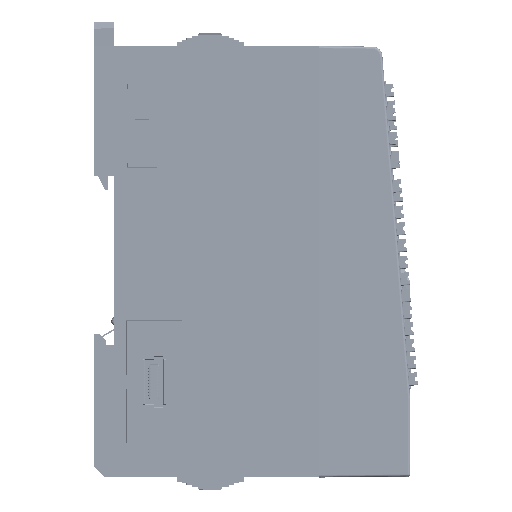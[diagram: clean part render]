
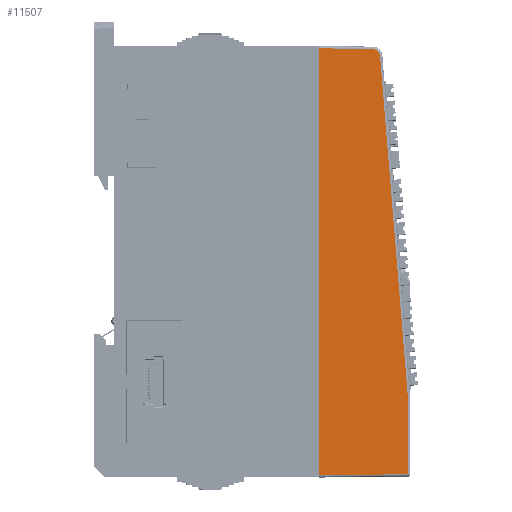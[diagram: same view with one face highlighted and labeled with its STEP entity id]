
A CAD part, front view. The second image highlights one B-rep face of the part: STEP entity #11507.
In plain terms, the highlighted planar face has unit normal (0.011, -1, 0).
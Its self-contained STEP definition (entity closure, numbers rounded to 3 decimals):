
#984=ELLIPSE('',#171730,1.5,1.5);
#11507=ADVANCED_FACE('',(#26527),#20117,.F.);
#20117=PLANE('',#171731);
#26527=FACE_OUTER_BOUND('',#35451,.T.);
#35451=EDGE_LOOP('',(#53106,#53107,#53108,#53109,#53110,#53111));
#53106=ORIENTED_EDGE('',*,*,#112931,.T.);
#53107=ORIENTED_EDGE('',*,*,#112903,.T.);
#53108=ORIENTED_EDGE('',*,*,#112926,.T.);
#53109=ORIENTED_EDGE('',*,*,#112932,.T.);
#53110=ORIENTED_EDGE('',*,*,#112933,.T.);
#53111=ORIENTED_EDGE('',*,*,#112681,.F.);
#95188=VERTEX_POINT('',#235281);
#95189=VERTEX_POINT('',#235283);
#95341=VERTEX_POINT('',#235735);
#95342=VERTEX_POINT('',#235737);
#95361=VERTEX_POINT('',#235782);
#95362=VERTEX_POINT('',#235793);
#112681=EDGE_CURVE('',#95188,#95189,#136493,.T.);
#112903=EDGE_CURVE('',#95342,#95341,#136643,.T.);
#112926=EDGE_CURVE('',#95341,#95361,#136659,.T.);
#112931=EDGE_CURVE('',#95188,#95342,#136663,.T.);
#112932=EDGE_CURVE('',#95361,#95362,#984,.T.);
#112933=EDGE_CURVE('',#95362,#95189,#136664,.T.);
#136493=LINE('',#235282,#154883);
#136643=LINE('',#235736,#155033);
#136659=LINE('',#235783,#155049);
#136663=LINE('',#235790,#155053);
#136664=LINE('',#235794,#155054);
#154883=VECTOR('',#190481,1.);
#155033=VECTOR('',#190933,1.);
#155049=VECTOR('',#190971,1.);
#155053=VECTOR('',#190981,1.);
#155054=VECTOR('',#190986,1.);
#171730=AXIS2_PLACEMENT_3D('',#235792,#190984,#190985);
#171731=AXIS2_PLACEMENT_3D('',#235795,#190987,#190988);
#190481=DIRECTION('',(0.,0.,1.));
#190933=DIRECTION('',(0.,0.,1.));
#190971=DIRECTION('',(-0.081,-0.001,0.997));
#190981=DIRECTION('',(1.,0.01,0.01));
#190984=DIRECTION('',(0.01,-1.,0.));
#190985=DIRECTION('',(1.,0.01,0.));
#190986=DIRECTION('',(-1.,-0.01,0.013));
#190987=DIRECTION('',(-0.01,1.,0.));
#190988=DIRECTION('',(1.,0.01,0.));
#235281=CARTESIAN_POINT('',(-247.544,11.661,189.094));
#235282=CARTESIAN_POINT('',(-247.544,11.661,233.694));
#235283=CARTESIAN_POINT('',(-247.544,11.661,278.294));
#235735=CARTESIAN_POINT('',(-229.038,11.855,205.174));
#235736=CARTESIAN_POINT('',(-229.038,11.855,205.194));
#235737=CARTESIAN_POINT('',(-229.038,11.855,189.288));
#235782=CARTESIAN_POINT('',(-234.883,11.794,276.772));
#235783=CARTESIAN_POINT('',(-234.883,11.794,276.772));
#235790=CARTESIAN_POINT('',(-247.075,11.666,189.099));
#235792=CARTESIAN_POINT('',(-236.378,11.778,276.65));
#235793=CARTESIAN_POINT('',(-236.359,11.778,278.149));
#235794=CARTESIAN_POINT('',(-246.967,11.667,278.287));
#235795=CARTESIAN_POINT('',(-247.544,11.661,233.694));
